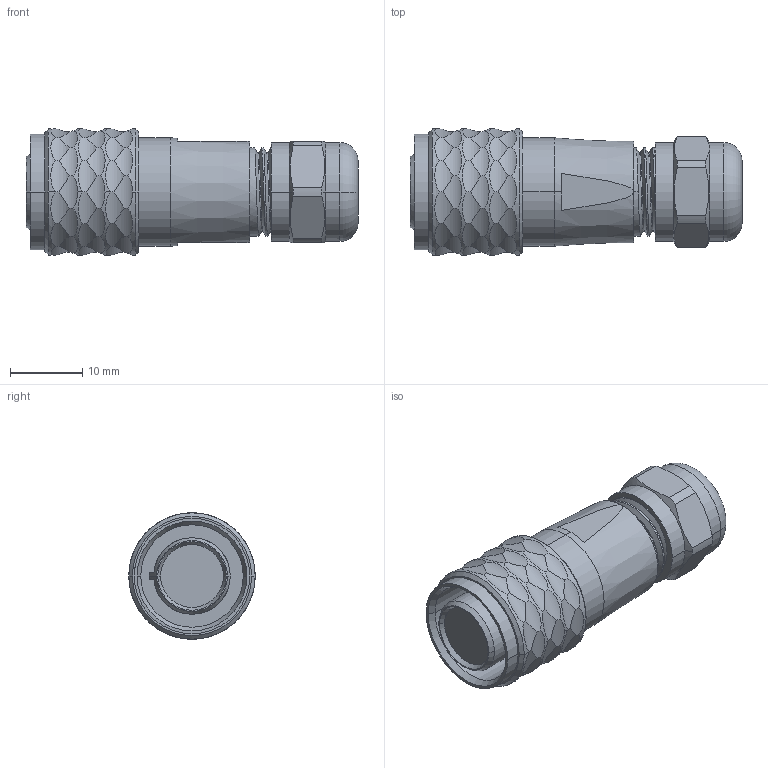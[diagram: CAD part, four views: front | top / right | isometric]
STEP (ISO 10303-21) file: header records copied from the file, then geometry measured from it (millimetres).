
FILE_DESCRIPTION((''),'2;1');
FILE_NAME('SF1210-P4','2022-01-19T',('Administrator'),(''),'CREO PARAMETRIC BY PTC INC, 2016130','CREO PARAMETRIC BY PTC INC, 2016130','');
FILE_SCHEMA(('CONFIG_CONTROL_DESIGN'));
Length unit declared in the file: millimetre
Products named in the file (1): SF1210-P4
Bounding box: 46 x 17.5 x 17.5 mm (x, y, z)
Volume: 7551 mm3; surface area: 3324.2 mm2
Topology: 1 solids, 1 shells, 162 faces, 446 edges, 292 vertices
Faces by surface type: cylinder 111, plane 24, cone 18, torus 6, bspline 3
Entity records: 7369 total; most frequent: CARTESIAN_POINT 3601, ORIENTED_EDGE 888, DIRECTION 621, EDGE_CURVE 444, VERTEX_POINT 292, AXIS2_PLACEMENT_3D 274, B_SPLINE_CURVE_WITH_KNOTS 256, EDGE_LOOP 170
